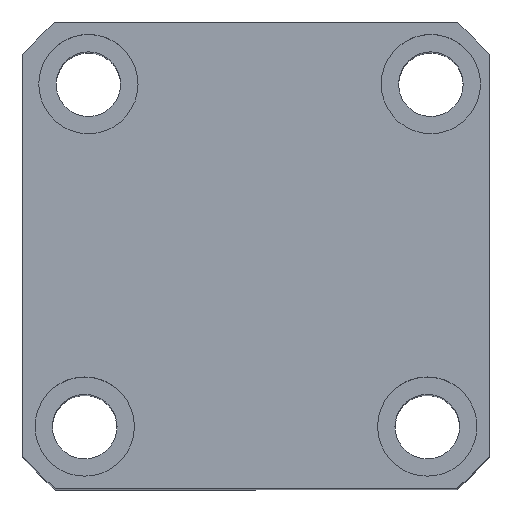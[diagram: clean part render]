
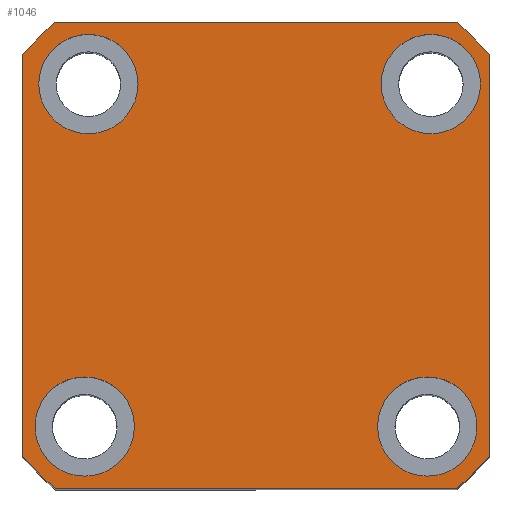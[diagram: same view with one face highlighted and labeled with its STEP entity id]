
A CAD part, top view. The second image highlights one B-rep face of the part: STEP entity #1046.
In plain terms, the highlighted planar face has unit normal (0, 0, 1) as drawn and (0, 0, -1) by its records, which use the part's own axes.
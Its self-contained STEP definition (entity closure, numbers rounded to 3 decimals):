
#546 = CARTESIAN_POINT ( 'NONE',  ( -47., -40.435, 0. ) ) ;
#567 = AXIS2_PLACEMENT_3D ( 'NONE', #11316, #745, #13074 ) ;
#745 = DIRECTION ( 'NONE',  ( 0., 0., 1. ) ) ;
#879 = EDGE_CURVE ( 'NONE', #14071, #15115, #14276, .T. ) ;
#889 = EDGE_CURVE ( 'NONE', #19339, #2235, #9641, .T. ) ;
#1046 = ADVANCED_FACE ( 'NONE', ( #4972, #18243, #13748, #22212, #13209 ), #8719, .F. ) ;
#1062 = EDGE_CURVE ( 'NONE', #3307, #9644, #8537, .T. ) ;
#1080 = DIRECTION ( 'NONE',  ( -1., 0., 0. ) ) ;
#1227 = ORIENTED_EDGE ( 'NONE', *, *, #12429, .F. ) ;
#1319 = CARTESIAN_POINT ( 'NONE',  ( -47., -47., 0. ) ) ;
#1355 = DIRECTION ( 'NONE',  ( 1., 0., 0. ) ) ;
#1629 = CARTESIAN_POINT ( 'NONE',  ( -47., 47., 0. ) ) ;
#1630 = EDGE_LOOP ( 'NONE', ( #7294, #3403 ) ) ;
#1754 = CIRCLE ( 'NONE', #18604, 10. ) ;
#1763 = CARTESIAN_POINT ( 'NONE',  ( 35.23, -34.5, 0. ) ) ;
#1764 = DIRECTION ( 'NONE',  ( 0., 0., -1. ) ) ;
#2235 = VERTEX_POINT ( 'NONE', #17571 ) ;
#2622 = CIRCLE ( 'NONE', #20577, 10. ) ;
#3307 = VERTEX_POINT ( 'NONE', #20849 ) ;
#3403 = ORIENTED_EDGE ( 'NONE', *, *, #4330, .F. ) ;
#3532 = CARTESIAN_POINT ( 'NONE',  ( 47., 47., 0. ) ) ;
#3551 = AXIS2_PLACEMENT_3D ( 'NONE', #22106, #11910, #1355 ) ;
#3560 = DIRECTION ( 'NONE',  ( -1., 0., 0. ) ) ;
#3679 = CARTESIAN_POINT ( 'NONE',  ( -23.77, -34.5, 0. ) ) ;
#3803 = LINE ( 'NONE', #3532, #19268 ) ;
#3804 = CARTESIAN_POINT ( 'NONE',  ( 47., 40.435, 0. ) ) ;
#3838 = ORIENTED_EDGE ( 'NONE', *, *, #4803, .F. ) ;
#4005 = DIRECTION ( 'NONE',  ( 0., 0., -1. ) ) ;
#4330 = EDGE_CURVE ( 'NONE', #14097, #19341, #6032, .T. ) ;
#4421 = EDGE_LOOP ( 'NONE', ( #13007, #4897, #1227, #9947, #6062, #3838, #21792, #9950 ) ) ;
#4758 = EDGE_CURVE ( 'NONE', #8946, #12234, #3803, .T. ) ;
#4803 = EDGE_CURVE ( 'NONE', #15115, #15366, #17141, .T. ) ;
#4813 = AXIS2_PLACEMENT_3D ( 'NONE', #8117, #8144, #8163 ) ;
#4872 = CARTESIAN_POINT ( 'NONE',  ( -24.5, 34.5, 0. ) ) ;
#4897 = ORIENTED_EDGE ( 'NONE', *, *, #4758, .F. ) ;
#4972 = FACE_BOUND ( 'NONE', #16404, .T. ) ;
#5111 = CARTESIAN_POINT ( 'NONE',  ( 0., 0., 0. ) ) ;
#5691 = VERTEX_POINT ( 'NONE', #12021 ) ;
#5697 = CIRCLE ( 'NONE', #567, 62. ) ;
#5944 = EDGE_CURVE ( 'NONE', #21266, #21288, #12323, .T. ) ;
#6032 = CIRCLE ( 'NONE', #11192, 10. ) ;
#6062 = ORIENTED_EDGE ( 'NONE', *, *, #6533, .F. ) ;
#6533 = EDGE_CURVE ( 'NONE', #15366, #19339, #14768, .T. ) ;
#6730 = CARTESIAN_POINT ( 'NONE',  ( 34.5, 34.5, 0. ) ) ;
#6895 = DIRECTION ( 'NONE',  ( 1., 0., 0. ) ) ;
#7138 = CARTESIAN_POINT ( 'NONE',  ( -40.435, 47., 0. ) ) ;
#7260 = CIRCLE ( 'NONE', #16633, 10. ) ;
#7294 = ORIENTED_EDGE ( 'NONE', *, *, #9048, .F. ) ;
#7560 = EDGE_CURVE ( 'NONE', #5691, #14071, #14218, .T. ) ;
#7588 = ORIENTED_EDGE ( 'NONE', *, *, #1062, .F. ) ;
#7783 = CARTESIAN_POINT ( 'NONE',  ( 45.23, -34.5, 0. ) ) ;
#8005 = ORIENTED_EDGE ( 'NONE', *, *, #12556, .F. ) ;
#8117 = CARTESIAN_POINT ( 'NONE',  ( 0., 0., 0. ) ) ;
#8144 = DIRECTION ( 'NONE',  ( 0., 0., 1. ) ) ;
#8147 = DIRECTION ( 'NONE',  ( 0., 0., -1. ) ) ;
#8163 = DIRECTION ( 'NONE',  ( 1., 0., 0. ) ) ;
#8268 = DIRECTION ( 'NONE',  ( 1., 0., 0. ) ) ;
#8283 = VERTEX_POINT ( 'NONE', #4872 ) ;
#8473 = DIRECTION ( 'NONE',  ( -1., 0., 0. ) ) ;
#8494 = DIRECTION ( 'NONE',  ( 0., 0., 1. ) ) ;
#8537 = CIRCLE ( 'NONE', #15334, 10. ) ;
#8719 = PLANE ( 'NONE',  #18746 ) ;
#8752 = CARTESIAN_POINT ( 'NONE',  ( 0., 0., 0. ) ) ;
#8773 = DIRECTION ( 'NONE',  ( 1., 0., 0. ) ) ;
#8943 = CARTESIAN_POINT ( 'NONE',  ( -33.77, -34.5, 0. ) ) ;
#8946 = VERTEX_POINT ( 'NONE', #13185 ) ;
#8948 = DIRECTION ( 'NONE',  ( 0., 0., -1. ) ) ;
#8970 = DIRECTION ( 'NONE',  ( -1., 0., 0. ) ) ;
#9048 = EDGE_CURVE ( 'NONE', #19341, #14097, #19225, .T. ) ;
#9167 = CARTESIAN_POINT ( 'NONE',  ( -44.5, 34.5, 0. ) ) ;
#9205 = ORIENTED_EDGE ( 'NONE', *, *, #13616, .F. ) ;
#9543 = CARTESIAN_POINT ( 'NONE',  ( 25.23, -34.5, 0. ) ) ;
#9641 = LINE ( 'NONE', #1319, #19308 ) ;
#9644 = VERTEX_POINT ( 'NONE', #3679 ) ;
#9947 = ORIENTED_EDGE ( 'NONE', *, *, #889, .F. ) ;
#9950 = ORIENTED_EDGE ( 'NONE', *, *, #7560, .F. ) ;
#10024 = DIRECTION ( 'NONE',  ( 0., 0., -1. ) ) ;
#10668 = CARTESIAN_POINT ( 'NONE',  ( 44.5, 34.5, 0. ) ) ;
#11192 = AXIS2_PLACEMENT_3D ( 'NONE', #6730, #18795, #8473 ) ;
#11316 = CARTESIAN_POINT ( 'NONE',  ( 0., 0., 0. ) ) ;
#11477 = CIRCLE ( 'NONE', #15120, 10. ) ;
#11646 = DIRECTION ( 'NONE',  ( 0., 0., -1. ) ) ;
#11702 = AXIS2_PLACEMENT_3D ( 'NONE', #21846, #11646, #1080 ) ;
#11910 = DIRECTION ( 'NONE',  ( 0., 0., 1. ) ) ;
#12021 = CARTESIAN_POINT ( 'NONE',  ( 40.435, 47., 0. ) ) ;
#12234 = VERTEX_POINT ( 'NONE', #3804 ) ;
#12316 = CARTESIAN_POINT ( 'NONE',  ( 35.23, -34.5, 0. ) ) ;
#12323 = CIRCLE ( 'NONE', #13835, 10. ) ;
#12429 = EDGE_CURVE ( 'NONE', #2235, #8946, #20190, .T. ) ;
#12556 = EDGE_CURVE ( 'NONE', #21288, #21266, #2622, .T. ) ;
#12592 = AXIS2_PLACEMENT_3D ( 'NONE', #5111, #17245, #6895 ) ;
#12600 = VECTOR ( 'NONE', #15942, 1000. ) ;
#12946 = EDGE_LOOP ( 'NONE', ( #15486, #13870 ) ) ;
#13007 = ORIENTED_EDGE ( 'NONE', *, *, #21259, .F. ) ;
#13074 = DIRECTION ( 'NONE',  ( 1., 0., 0. ) ) ;
#13185 = CARTESIAN_POINT ( 'NONE',  ( 47., -40.435, 0. ) ) ;
#13209 = FACE_OUTER_BOUND ( 'NONE', #4421, .T. ) ;
#13616 = EDGE_CURVE ( 'NONE', #9644, #3307, #1754, .T. ) ;
#13686 = VECTOR ( 'NONE', #15635, 1000. ) ;
#13748 = FACE_BOUND ( 'NONE', #12946, .T. ) ;
#13835 = AXIS2_PLACEMENT_3D ( 'NONE', #1763, #14064, #3560 ) ;
#13870 = ORIENTED_EDGE ( 'NONE', *, *, #20966, .F. ) ;
#14035 = DIRECTION ( 'NONE',  ( 0., 1., 0. ) ) ;
#14064 = DIRECTION ( 'NONE',  ( 0., 0., -1. ) ) ;
#14065 = DIRECTION ( 'NONE',  ( -1., 0., 0. ) ) ;
#14071 = VERTEX_POINT ( 'NONE', #7138 ) ;
#14097 = VERTEX_POINT ( 'NONE', #10668 ) ;
#14218 = LINE ( 'NONE', #1629, #13686 ) ;
#14276 = CIRCLE ( 'NONE', #4813, 62. ) ;
#14510 = CARTESIAN_POINT ( 'NONE',  ( -34.5, 34.5, 0. ) ) ;
#14551 = EDGE_LOOP ( 'NONE', ( #7588, #9205 ) ) ;
#14768 = CIRCLE ( 'NONE', #3551, 62. ) ;
#15115 = VERTEX_POINT ( 'NONE', #15713 ) ;
#15120 = AXIS2_PLACEMENT_3D ( 'NONE', #14510, #4005, #16188 ) ;
#15334 = AXIS2_PLACEMENT_3D ( 'NONE', #8943, #8948, #8970 ) ;
#15366 = VERTEX_POINT ( 'NONE', #546 ) ;
#15486 = ORIENTED_EDGE ( 'NONE', *, *, #15717, .F. ) ;
#15635 = DIRECTION ( 'NONE',  ( -1., 0., 0. ) ) ;
#15713 = CARTESIAN_POINT ( 'NONE',  ( -47., 40.435, 0. ) ) ;
#15717 = EDGE_CURVE ( 'NONE', #16336, #8283, #7260, .T. ) ;
#15942 = DIRECTION ( 'NONE',  ( 0., -1., 0. ) ) ;
#16188 = DIRECTION ( 'NONE',  ( -1., 0., 0. ) ) ;
#16336 = VERTEX_POINT ( 'NONE', #9167 ) ;
#16404 = EDGE_LOOP ( 'NONE', ( #8005, #20483 ) ) ;
#16633 = AXIS2_PLACEMENT_3D ( 'NONE', #20293, #10024, #21985 ) ;
#17141 = LINE ( 'NONE', #19144, #12600 ) ;
#17245 = DIRECTION ( 'NONE',  ( 0., 0., 1. ) ) ;
#17571 = CARTESIAN_POINT ( 'NONE',  ( 40.435, -47., 0. ) ) ;
#17901 = CARTESIAN_POINT ( 'NONE',  ( -40.435, -47., 0. ) ) ;
#18243 = FACE_BOUND ( 'NONE', #14551, .T. ) ;
#18476 = CARTESIAN_POINT ( 'NONE',  ( -33.77, -34.5, 0. ) ) ;
#18604 = AXIS2_PLACEMENT_3D ( 'NONE', #18476, #8147, #20180 ) ;
#18746 = AXIS2_PLACEMENT_3D ( 'NONE', #8752, #8494, #8773 ) ;
#18795 = DIRECTION ( 'NONE',  ( 0., 0., -1. ) ) ;
#19144 = CARTESIAN_POINT ( 'NONE',  ( -47., 47., 0. ) ) ;
#19225 = CIRCLE ( 'NONE', #11702, 10. ) ;
#19268 = VECTOR ( 'NONE', #14035, 1000. ) ;
#19308 = VECTOR ( 'NONE', #8268, 1000. ) ;
#19339 = VERTEX_POINT ( 'NONE', #17901 ) ;
#19341 = VERTEX_POINT ( 'NONE', #21300 ) ;
#20180 = DIRECTION ( 'NONE',  ( -1., 0., 0. ) ) ;
#20190 = CIRCLE ( 'NONE', #12592, 62. ) ;
#20293 = CARTESIAN_POINT ( 'NONE',  ( -34.5, 34.5, 0. ) ) ;
#20483 = ORIENTED_EDGE ( 'NONE', *, *, #5944, .F. ) ;
#20577 = AXIS2_PLACEMENT_3D ( 'NONE', #12316, #1764, #14065 ) ;
#20849 = CARTESIAN_POINT ( 'NONE',  ( -43.77, -34.5, 0. ) ) ;
#20966 = EDGE_CURVE ( 'NONE', #8283, #16336, #11477, .T. ) ;
#21259 = EDGE_CURVE ( 'NONE', #12234, #5691, #5697, .T. ) ;
#21266 = VERTEX_POINT ( 'NONE', #7783 ) ;
#21288 = VERTEX_POINT ( 'NONE', #9543 ) ;
#21300 = CARTESIAN_POINT ( 'NONE',  ( 24.5, 34.5, 0. ) ) ;
#21792 = ORIENTED_EDGE ( 'NONE', *, *, #879, .F. ) ;
#21846 = CARTESIAN_POINT ( 'NONE',  ( 34.5, 34.5, 0. ) ) ;
#21985 = DIRECTION ( 'NONE',  ( -1., 0., 0. ) ) ;
#22106 = CARTESIAN_POINT ( 'NONE',  ( 0., 0., 0. ) ) ;
#22212 = FACE_BOUND ( 'NONE', #1630, .T. ) ;
